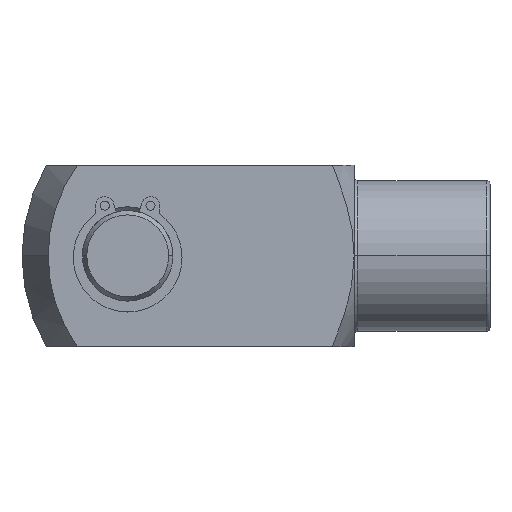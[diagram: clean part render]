
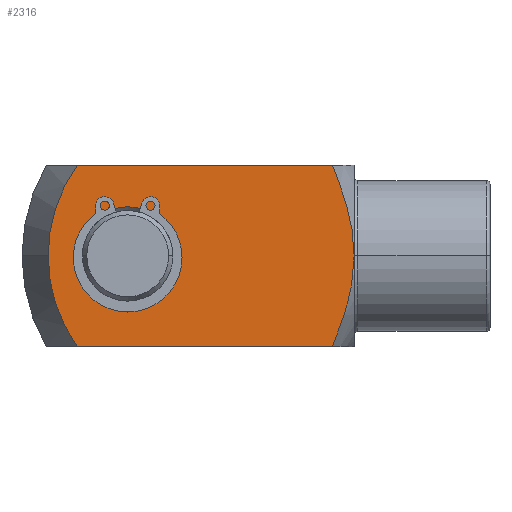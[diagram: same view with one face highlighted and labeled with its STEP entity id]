
A CAD part, top view. The second image highlights one B-rep face of the part: STEP entity #2316.
In plain terms, the highlighted planar face has unit normal (0, 0, 1).
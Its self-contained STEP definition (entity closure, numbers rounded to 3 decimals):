
#194 = ORIENTED_EDGE ( 'NONE', *, *, #2197, .T. ) ;
#351 = VERTEX_POINT ( 'NONE', #1110 ) ;
#353 = EDGE_CURVE ( 'NONE', #354, #351, #1109, .T. ) ;
#354 = VERTEX_POINT ( 'NONE', #1104 ) ;
#362 = VERTEX_POINT ( 'NONE', #1143 ) ;
#363 = VERTEX_POINT ( 'NONE', #1142 ) ;
#390 = EDGE_CURVE ( 'NONE', #362, #363, #1146, .T. ) ;
#959 = CARTESIAN_POINT ( 'NONE',  ( -18., -1.047, 12. ) ) ;
#1104 = CARTESIAN_POINT ( 'NONE',  ( -41.5, 0., 12. ) ) ;
#1105 = DIRECTION ( 'NONE',  ( 1., 0., 0. ) ) ;
#1106 = DIRECTION ( 'NONE',  ( 0., 0., -1. ) ) ;
#1107 = CARTESIAN_POINT ( 'NONE',  ( -48., 0., 12. ) ) ;
#1108 = AXIS2_PLACEMENT_3D ( 'NONE', #1107, #1106, #1105 ) ;
#1109 = CIRCLE ( 'NONE', #1108, 6.5 ) ;
#1110 = CARTESIAN_POINT ( 'NONE',  ( -54.5, 0., 12. ) ) ;
#1142 = CARTESIAN_POINT ( 'NONE',  ( -54.665, -12., 12. ) ) ;
#1143 = CARTESIAN_POINT ( 'NONE',  ( -58.536, 0., 12. ) ) ;
#1146 = CIRCLE ( 'NONE', #1208, 20.536 ) ;
#1147 = CARTESIAN_POINT ( 'NONE',  ( -38., 0., 12. ) ) ;
#1206 = DIRECTION ( 'NONE',  ( 1., 0., 0. ) ) ;
#1207 = DIRECTION ( 'NONE',  ( 0., 0., 1. ) ) ;
#1208 = AXIS2_PLACEMENT_3D ( 'NONE', #1147, #1207, #1206 ) ;
#1213 = CARTESIAN_POINT ( 'NONE',  ( -18.374, -4.117, 12. ) ) ;
#1214 = CARTESIAN_POINT ( 'NONE',  ( -18.08, -2.079, 12. ) ) ;
#1460 = CARTESIAN_POINT ( 'NONE',  ( -18., 0., 12. ) ) ;
#1464 = CARTESIAN_POINT ( 'NONE',  ( -20.87, -12., 12. ) ) ;
#1465 = CARTESIAN_POINT ( 'NONE',  ( -18., 0., 12. ) ) ;
#1480 = DIRECTION ( 'NONE',  ( 1., 0., 0. ) ) ;
#1481 = VECTOR ( 'NONE', #1480, 1000. ) ;
#1482 = CARTESIAN_POINT ( 'NONE',  ( -62., -12., 12. ) ) ;
#1483 = LINE ( 'NONE', #1482, #1481 ) ;
#1508 = CARTESIAN_POINT ( 'NONE',  ( -18., 0., 12. ) ) ;
#1509 = CARTESIAN_POINT ( 'NONE',  ( -18., 0.522, 12. ) ) ;
#1510 = CARTESIAN_POINT ( 'NONE',  ( -18.02, 1.046, 12. ) ) ;
#1511 = CARTESIAN_POINT ( 'NONE',  ( -18.097, 2.082, 12. ) ) ;
#1512 = CARTESIAN_POINT ( 'NONE',  ( -18.155, 2.596, 12. ) ) ;
#1513 = CARTESIAN_POINT ( 'NONE',  ( -18.376, 4.127, 12. ) ) ;
#1514 = CARTESIAN_POINT ( 'NONE',  ( -18.59, 5.134, 12. ) ) ;
#1515 = CARTESIAN_POINT ( 'NONE',  ( -19.113, 7.127, 12. ) ) ;
#1516 = CARTESIAN_POINT ( 'NONE',  ( -19.423, 8.113, 12. ) ) ;
#1517 = CARTESIAN_POINT ( 'NONE',  ( -20.106, 10.072, 12. ) ) ;
#1518 = CARTESIAN_POINT ( 'NONE',  ( -20.479, 11.042, 12. ) ) ;
#1519 = CARTESIAN_POINT ( 'NONE',  ( -20.87, 12., 12. ) ) ;
#1522 = B_SPLINE_CURVE_WITH_KNOTS ( 'NONE', 3,
 ( #1519, #1518, #1517, #1516, #1515, #1514, #1513, #1512, #1511, #1510, #1509, #1508 ),
 .UNSPECIFIED., .F., .F.,
 ( 4, 2, 2, 2, 2, 4 ),
 ( 0.036, 0.039, 0.042, 0.045, 0.047, 0.048 ),
 .UNSPECIFIED. ) ;
#1678 = DIRECTION ( 'NONE',  ( 1., 0., 0. ) ) ;
#1679 = DIRECTION ( 'NONE',  ( 0., 0., -1. ) ) ;
#1680 = CARTESIAN_POINT ( 'NONE',  ( -48., 0., 12. ) ) ;
#1681 = AXIS2_PLACEMENT_3D ( 'NONE', #1680, #1679, #1678 ) ;
#1682 = CIRCLE ( 'NONE', #1681, 6.5 ) ;
#1683 = FACE_BOUND ( 'NONE', #2311, .T. ) ;
#1684 = DIRECTION ( 'NONE',  ( 1., 0., 0. ) ) ;
#1685 = VECTOR ( 'NONE', #1684, 1000. ) ;
#1686 = CARTESIAN_POINT ( 'NONE',  ( -62., 12., 12. ) ) ;
#1687 = LINE ( 'NONE', #1686, #1685 ) ;
#1688 = DIRECTION ( 'NONE',  ( 1., 0., 0. ) ) ;
#1689 = DIRECTION ( 'NONE',  ( 0., 0., 1. ) ) ;
#1690 = CARTESIAN_POINT ( 'NONE',  ( -38., 0., 12. ) ) ;
#1691 = AXIS2_PLACEMENT_3D ( 'NONE', #1690, #1689, #1688 ) ;
#1692 = CIRCLE ( 'NONE', #1691, 20.536 ) ;
#1693 = CARTESIAN_POINT ( 'NONE',  ( -20.87, 12., 12. ) ) ;
#1694 = CARTESIAN_POINT ( 'NONE',  ( -54.665, 12., 12. ) ) ;
#1731 = DIRECTION ( 'NONE',  ( 1., 0., 0. ) ) ;
#1732 = DIRECTION ( 'NONE',  ( 0., 0., 1. ) ) ;
#1733 = CARTESIAN_POINT ( 'NONE',  ( -62., -12., 12. ) ) ;
#1735 = AXIS2_PLACEMENT_3D ( 'NONE', #1733, #1732, #1731 ) ;
#1736 = PLANE ( 'NONE',  #1735 ) ;
#1737 = FACE_OUTER_BOUND ( 'NONE', #2313, .T. ) ;
#2197 = EDGE_CURVE ( 'NONE', #363, #2204, #1483, .T. ) ;
#2203 = VERTEX_POINT ( 'NONE', #1465 ) ;
#2204 = VERTEX_POINT ( 'NONE', #1464 ) ;
#2205 = ORIENTED_EDGE ( 'NONE', *, *, #2206, .F. ) ;
#2206 = EDGE_CURVE ( 'NONE', #2203, #2204, #2326, .T. ) ;
#2207 = ORIENTED_EDGE ( 'NONE', *, *, #2208, .F. ) ;
#2208 = EDGE_CURVE ( 'NONE', #2306, #2203, #1522, .T. ) ;
#2304 = ORIENTED_EDGE ( 'NONE', *, *, #390, .T. ) ;
#2305 = VERTEX_POINT ( 'NONE', #1694 ) ;
#2306 = VERTEX_POINT ( 'NONE', #1693 ) ;
#2307 = ORIENTED_EDGE ( 'NONE', *, *, #2308, .T. ) ;
#2308 = EDGE_CURVE ( 'NONE', #2305, #362, #1692, .T. ) ;
#2309 = ORIENTED_EDGE ( 'NONE', *, *, #2310, .F. ) ;
#2310 = EDGE_CURVE ( 'NONE', #2305, #2306, #1687, .T. ) ;
#2311 = EDGE_LOOP ( 'NONE', ( #2314, #2312 ) ) ;
#2312 = ORIENTED_EDGE ( 'NONE', *, *, #2315, .T. ) ;
#2313 = EDGE_LOOP ( 'NONE', ( #2309, #2307, #2304, #194, #2205, #2207 ) ) ;
#2314 = ORIENTED_EDGE ( 'NONE', *, *, #353, .T. ) ;
#2315 = EDGE_CURVE ( 'NONE', #351, #354, #1682, .T. ) ;
#2316 = ADVANCED_FACE ( 'NONE', ( #1683, #1737 ), #1736, .T. ) ;
#2326 = B_SPLINE_CURVE_WITH_KNOTS ( 'NONE', 3,
 ( #1460, #959, #1214, #1213, #2329, #2328, #2332, #2334, #2333, #2330 ),
 .UNSPECIFIED., .F., .F.,
 ( 4, 2, 2, 2, 4 ),
 ( 0.048, 0.052, 0.055, 0.058, 0.061 ),
 .UNSPECIFIED. ) ;
#2328 = CARTESIAN_POINT ( 'NONE',  ( -19.11, -7.117, 12. ) ) ;
#2329 = CARTESIAN_POINT ( 'NONE',  ( -18.587, -5.123, 12. ) ) ;
#2330 = CARTESIAN_POINT ( 'NONE',  ( -20.87, -12., 12. ) ) ;
#2332 = CARTESIAN_POINT ( 'NONE',  ( -19.42, -8.105, 12. ) ) ;
#2333 = CARTESIAN_POINT ( 'NONE',  ( -20.477, -11.039, 12. ) ) ;
#2334 = CARTESIAN_POINT ( 'NONE',  ( -20.104, -10.067, 12. ) ) ;
